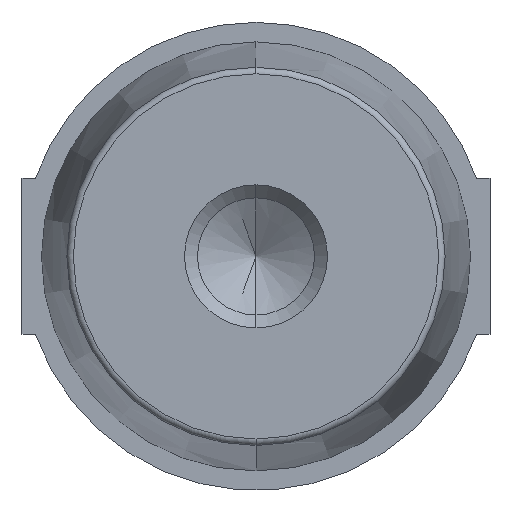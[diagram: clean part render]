
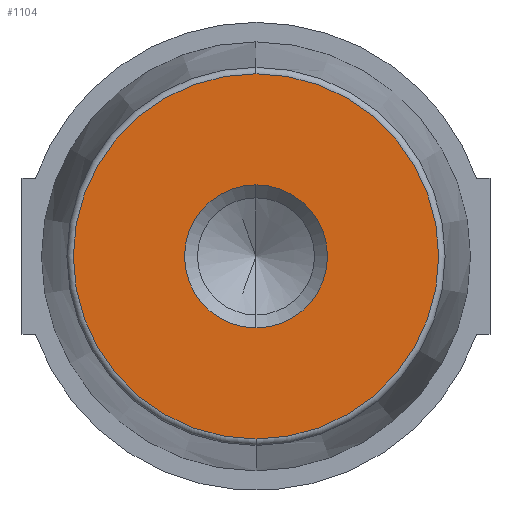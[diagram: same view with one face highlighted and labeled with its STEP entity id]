
A CAD part, front view. The second image highlights one B-rep face of the part: STEP entity #1104.
In plain terms, the highlighted planar face has unit normal (0, -1, 0).
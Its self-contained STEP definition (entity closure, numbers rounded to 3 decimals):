
#96 = VERTEX_POINT ( 'NONE', #1085 ) ;
#102 = FACE_BOUND ( 'NONE', #1159, .T. ) ;
#213 = CIRCLE ( 'NONE', #1047, 5.5 ) ;
#233 = DIRECTION ( 'NONE',  ( 0., 1., 0. ) ) ;
#254 = CARTESIAN_POINT ( 'NONE',  ( 0., 0., 14.049 ) ) ;
#269 = ORIENTED_EDGE ( 'NONE', *, *, #433, .T. ) ;
#302 = AXIS2_PLACEMENT_3D ( 'NONE', #1067, #233, #1137 ) ;
#379 = EDGE_CURVE ( 'NONE', #685, #637, #421, .T. ) ;
#421 = CIRCLE ( 'NONE', #1093, 14.049 ) ;
#433 = EDGE_CURVE ( 'NONE', #770, #96, #213, .T. ) ;
#437 = CARTESIAN_POINT ( 'NONE',  ( 0., 0., -14.049 ) ) ;
#450 = ORIENTED_EDGE ( 'NONE', *, *, #576, .T. ) ;
#484 = AXIS2_PLACEMENT_3D ( 'NONE', #485, #1121, #865 ) ;
#485 = CARTESIAN_POINT ( 'NONE',  ( 14.5, 0., 0. ) ) ;
#576 = EDGE_CURVE ( 'NONE', #96, #770, #752, .T. ) ;
#583 = FACE_OUTER_BOUND ( 'NONE', #675, .T. ) ;
#623 = DIRECTION ( 'NONE',  ( 0., -1., 0. ) ) ;
#637 = VERTEX_POINT ( 'NONE', #254 ) ;
#675 = EDGE_LOOP ( 'NONE', ( #876, #834 ) ) ;
#685 = VERTEX_POINT ( 'NONE', #437 ) ;
#733 = EDGE_CURVE ( 'NONE', #637, #685, #1049, .T. ) ;
#752 = CIRCLE ( 'NONE', #302, 5.5 ) ;
#770 = VERTEX_POINT ( 'NONE', #1113 ) ;
#827 = CARTESIAN_POINT ( 'NONE',  ( 0., 0., 0. ) ) ;
#834 = ORIENTED_EDGE ( 'NONE', *, *, #379, .T. ) ;
#837 = DIRECTION ( 'NONE',  ( 0., 0., 1. ) ) ;
#843 = DIRECTION ( 'NONE',  ( 0., 0., 1. ) ) ;
#849 = CARTESIAN_POINT ( 'NONE',  ( 0., 0., 0. ) ) ;
#850 = DIRECTION ( 'NONE',  ( 0., 1., 0. ) ) ;
#865 = DIRECTION ( 'NONE',  ( 0., 0., 1. ) ) ;
#876 = ORIENTED_EDGE ( 'NONE', *, *, #733, .T. ) ;
#898 = AXIS2_PLACEMENT_3D ( 'NONE', #849, #944, #843 ) ;
#944 = DIRECTION ( 'NONE',  ( 0., -1., 0. ) ) ;
#1008 = DIRECTION ( 'NONE',  ( 0., 0., 1. ) ) ;
#1023 = CARTESIAN_POINT ( 'NONE',  ( 0., 0., 0. ) ) ;
#1044 = PLANE ( 'NONE',  #484 ) ;
#1047 = AXIS2_PLACEMENT_3D ( 'NONE', #1023, #850, #837 ) ;
#1049 = CIRCLE ( 'NONE', #898, 14.049 ) ;
#1067 = CARTESIAN_POINT ( 'NONE',  ( 0., 0., 0. ) ) ;
#1085 = CARTESIAN_POINT ( 'NONE',  ( 0., 0., 5.5 ) ) ;
#1093 = AXIS2_PLACEMENT_3D ( 'NONE', #827, #623, #1008 ) ;
#1104 = ADVANCED_FACE ( 'NONE', ( #102, #583 ), #1044, .F. ) ;
#1113 = CARTESIAN_POINT ( 'NONE',  ( 0., 0., -5.5 ) ) ;
#1121 = DIRECTION ( 'NONE',  ( 0., 1., 0. ) ) ;
#1137 = DIRECTION ( 'NONE',  ( 0., 0., 1. ) ) ;
#1159 = EDGE_LOOP ( 'NONE', ( #269, #450 ) ) ;
